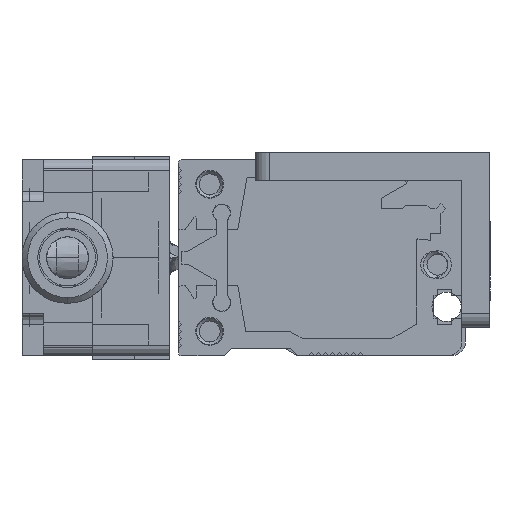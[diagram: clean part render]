
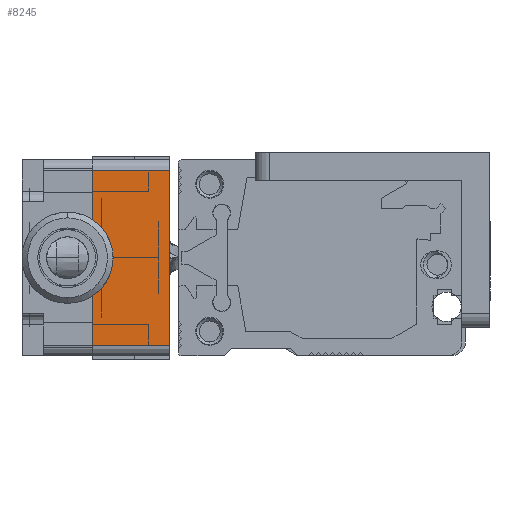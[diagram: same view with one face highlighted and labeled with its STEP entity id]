
A CAD part, left-side view. The second image highlights one B-rep face of the part: STEP entity #8245.
In plain terms, the highlighted planar face has unit normal (-1, 0, 0).
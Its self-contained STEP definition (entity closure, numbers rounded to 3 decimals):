
#1039 = AXIS2_PLACEMENT_3D ( 'NONE', #15822, #15825, #15826 ) ;
#4637 = VERTEX_POINT ( 'NONE', #15129 ) ;
#4664 = VERTEX_POINT ( 'NONE', #15095 ) ;
#4702 = VERTEX_POINT ( 'NONE', #15047 ) ;
#4741 = VERTEX_POINT ( 'NONE', #14996 ) ;
#5456 = FACE_OUTER_BOUND ( 'NONE', #18360, .T. ) ;
#6282 = CARTESIAN_POINT ( 'NONE',  ( -0.373, -56.938, -12.5 ) ) ;
#6283 = DIRECTION ( 'NONE',  ( 0., 1., 0. ) ) ;
#6284 = CARTESIAN_POINT ( 'NONE',  ( -0.373, -45.718, 15.08 ) ) ;
#6285 = DIRECTION ( 'NONE',  ( 0., 0., 1. ) ) ;
#6291 = CARTESIAN_POINT ( 'NONE',  ( -0.373, -45.718, 12.5 ) ) ;
#6292 = DIRECTION ( 'NONE',  ( 0., -1., 0. ) ) ;
#6295 = CARTESIAN_POINT ( 'NONE',  ( -0.373, -56.718, 15.08 ) ) ;
#6296 = DIRECTION ( 'NONE',  ( 0., 0., 1. ) ) ;
#8245 = ADVANCED_FACE ( 'NONE', ( #5456 ), #15823, .F. ) ;
#9116 = EDGE_CURVE ( 'NONE', #4637, #4741, #14567, .T. ) ;
#9117 = EDGE_CURVE ( 'NONE', #4741, #4702, #14569, .T. ) ;
#9120 = EDGE_CURVE ( 'NONE', #4702, #4664, #14574, .T. ) ;
#9122 = EDGE_CURVE ( 'NONE', #4637, #4664, #14558, .T. ) ;
#11034 = ORIENTED_EDGE ( 'NONE', *, *, #9122, .T. ) ;
#11035 = ORIENTED_EDGE ( 'NONE', *, *, #9120, .F. ) ;
#11036 = ORIENTED_EDGE ( 'NONE', *, *, #9117, .F. ) ;
#11037 = ORIENTED_EDGE ( 'NONE', *, *, #9116, .F. ) ;
#14558 = LINE ( 'NONE', #6295, #14572 ) ;
#14567 = LINE ( 'NONE', #6282, #14568 ) ;
#14568 = VECTOR ( 'NONE', #6283, 1000. ) ;
#14569 = LINE ( 'NONE', #6284, #14570 ) ;
#14570 = VECTOR ( 'NONE', #6285, 1000. ) ;
#14572 = VECTOR ( 'NONE', #6296, 1000. ) ;
#14574 = LINE ( 'NONE', #6291, #14575 ) ;
#14575 = VECTOR ( 'NONE', #6292, 1000. ) ;
#14996 = CARTESIAN_POINT ( 'NONE',  ( -0.373, -45.718, -12.5 ) ) ;
#15047 = CARTESIAN_POINT ( 'NONE',  ( -0.373, -45.718, 12.5 ) ) ;
#15095 = CARTESIAN_POINT ( 'NONE',  ( -0.373, -56.718, 12.5 ) ) ;
#15129 = CARTESIAN_POINT ( 'NONE',  ( -0.373, -56.718, -12.5 ) ) ;
#15822 = CARTESIAN_POINT ( 'NONE',  ( -0.373, -56.938, 13. ) ) ;
#15823 = PLANE ( 'NONE',  #1039 ) ;
#15825 = DIRECTION ( 'NONE',  ( 1., 0., 0. ) ) ;
#15826 = DIRECTION ( 'NONE',  ( 0., 0., -1. ) ) ;
#18360 = EDGE_LOOP ( 'NONE', ( #11034, #11035, #11036, #11037 ) ) ;
